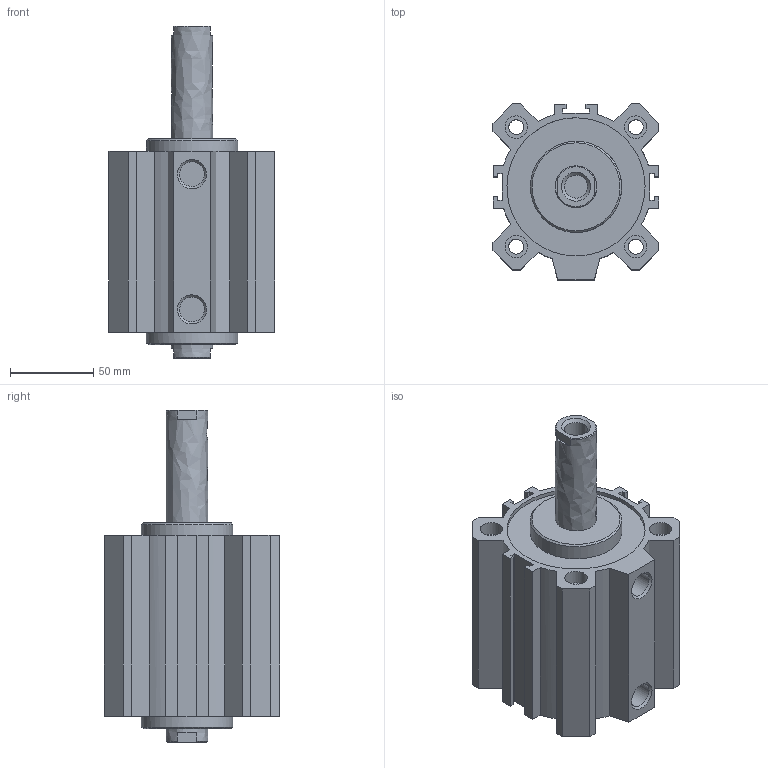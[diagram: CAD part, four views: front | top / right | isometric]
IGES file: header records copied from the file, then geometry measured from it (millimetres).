
Global section: file name: 1514_80_0060; native system: Autodesk Inventor 2014; preprocessor: unknown; author: A. Manieri; date: 20160824.142400; units: millimetre
Bounding box: 100 x 106 x 200 mm (x, y, z)
Volume: 671434.8 mm3; surface area: 154680.4 mm2
Topology: 2 solids, 2 shells, 132 faces, 346 edges, 238 vertices
Faces by surface type: bspline 132
